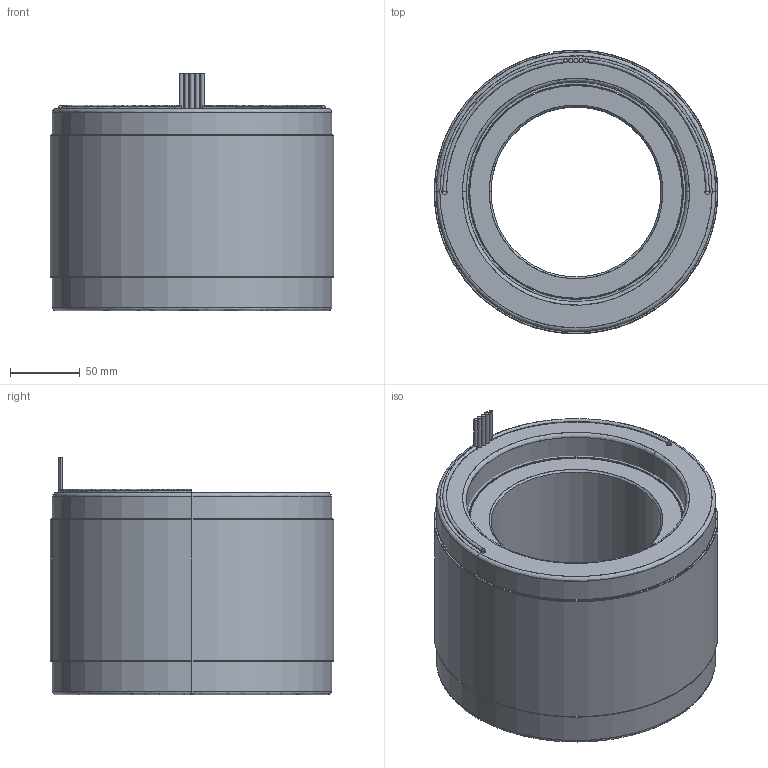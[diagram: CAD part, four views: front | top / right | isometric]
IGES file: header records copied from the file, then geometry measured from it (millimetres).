
Start section: SolidWorks IGES file using analytic representation for surfaces
Global section: file name: Z:\STANDARD STATOR ROTOR SETS\NEW DIRECT DRIVE MOTOR\8 OD 18S16P\6100337-04.IGS; native system: SolidWorks 2016; preprocessor: SolidWorks 2016; author: eng; date: 191023.160714; units: millimetre
Bounding box: 203.2 x 203.19 x 170.18 mm (x, y, z)
Surface area: 538348.7 mm2 (no closed solid volume)
Topology: 0 solids, 0 shells, 105 faces, 2710 edges, 2710 vertices
Faces by surface type: revolution 63, bspline 42
